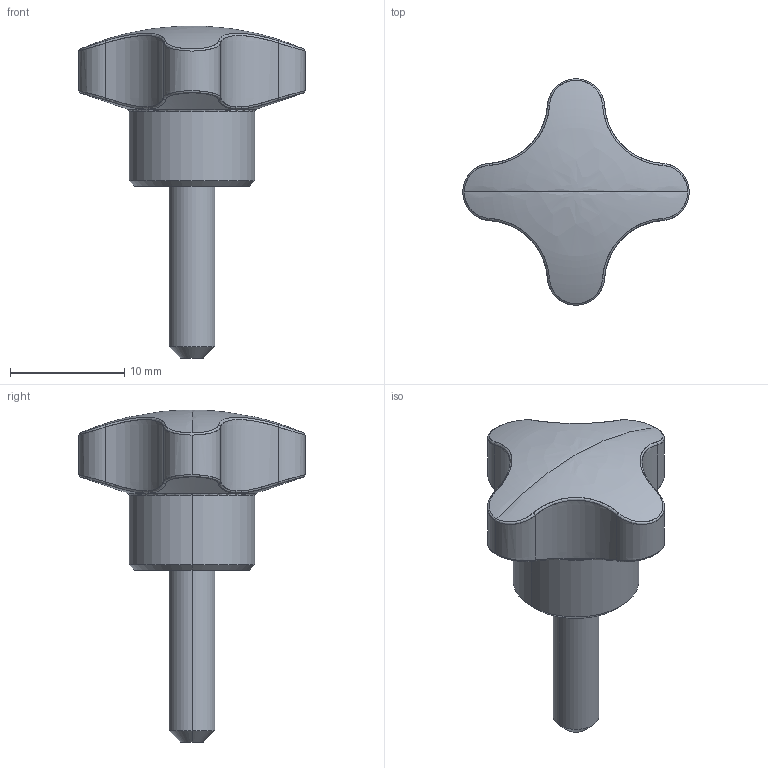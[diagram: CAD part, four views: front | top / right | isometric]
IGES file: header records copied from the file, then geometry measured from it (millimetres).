
Start section: SolidWorks IGES file using analytic representation for surfaces
Global section: file name: C:\Users\Marc\Documents\2 ENGINYERIA\Catalogo 3D\IGS STEP DXF\1121 20 501.IGS; native system: SolidWorks 2010; preprocessor: SolidWorks 2010; author: Marc; date: 101126.163638; units: millimetre
Bounding box: 19.77 x 19.77 x 29 mm (x, y, z)
Surface area: 1247 mm2 (no closed solid volume)
Topology: 0 solids, 0 shells, 63 faces, 749 edges, 748 vertices
Faces by surface type: bspline 35, revolution 28
